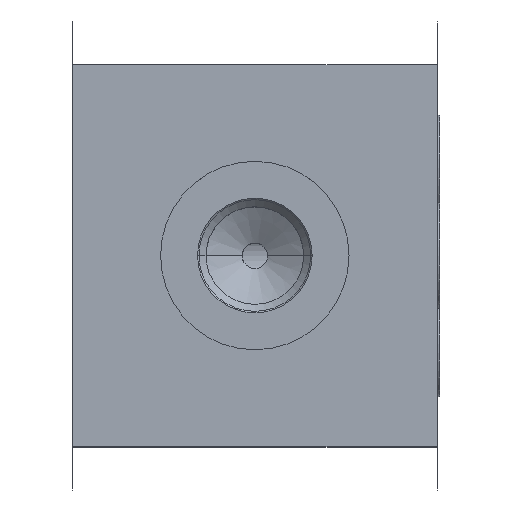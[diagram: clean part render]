
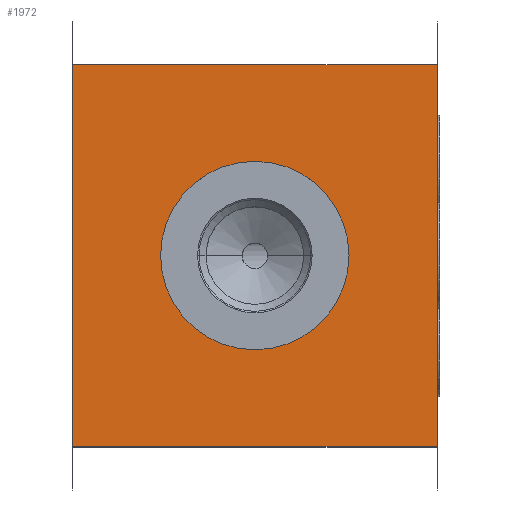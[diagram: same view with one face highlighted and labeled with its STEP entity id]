
A CAD part, top view. The second image highlights one B-rep face of the part: STEP entity #1972.
In plain terms, the highlighted planar face has unit normal (0, 0, 1).
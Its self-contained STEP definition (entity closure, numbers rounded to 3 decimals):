
#73=DIRECTION('',(0.,-1.,0.));
#74=VECTOR('',#73,45.);
#75=CARTESIAN_POINT('',(0.,22.5,34.));
#76=LINE('',#75,#74);
#224=DIRECTION('',(1.,0.,0.));
#225=VECTOR('',#224,43.);
#226=CARTESIAN_POINT('',(0.,-22.5,34.));
#227=LINE('',#226,#225);
#231=DIRECTION('',(1.,0.,0.));
#232=VECTOR('',#231,43.);
#233=CARTESIAN_POINT('',(0.,22.5,34.));
#234=LINE('',#233,#232);
#238=CARTESIAN_POINT('',(21.5,0.,34.));
#239=DIRECTION('',(0.,0.,-1.));
#240=DIRECTION('',(-1.,0.,0.));
#241=AXIS2_PLACEMENT_3D('',#238,#239,#240);
#246=CARTESIAN_POINT('',(21.5,0.,34.));
#247=DIRECTION('',(0.,0.,-1.));
#248=DIRECTION('',(1.,0.,0.));
#249=AXIS2_PLACEMENT_3D('',#246,#247,#248);
#291=DIRECTION('',(0.,-1.,0.));
#292=VECTOR('',#291,45.);
#293=CARTESIAN_POINT('',(43.,22.5,34.));
#294=LINE('',#293,#292);
#1637=CARTESIAN_POINT('',(0.,-22.5,34.));
#1639=VERTEX_POINT('',#1637);
#1643=CARTESIAN_POINT('',(0.,22.5,34.));
#1644=VERTEX_POINT('',#1643);
#1645=CARTESIAN_POINT('',(43.,-22.5,34.));
#1647=VERTEX_POINT('',#1645);
#1651=CARTESIAN_POINT('',(43.,22.5,34.));
#1652=VERTEX_POINT('',#1651);
#1785=CARTESIAN_POINT('',(10.4,0.,34.));
#1786=VERTEX_POINT('',#1785);
#1787=CARTESIAN_POINT('',(32.6,0.,34.));
#1788=VERTEX_POINT('',#1787);
#1953=CARTESIAN_POINT('',(0.,22.5,34.));
#1954=DIRECTION('',(0.,0.,1.));
#1955=DIRECTION('',(0.,-1.,0.));
#1956=AXIS2_PLACEMENT_3D('',#1953,#1954,#1955);
#1957=PLANE('',#1956);
#1958=ORIENTED_EDGE('',*,*,#1855,.F.);
#1960=ORIENTED_EDGE('',*,*,#1959,.T.);
#1962=ORIENTED_EDGE('',*,*,#1961,.T.);
#1963=ORIENTED_EDGE('',*,*,#1932,.F.);
#1964=EDGE_LOOP('',(#1958,#1960,#1962,#1963));
#1965=FACE_OUTER_BOUND('',#1964,.F.);
#1967=ORIENTED_EDGE('',*,*,#1966,.F.);
#1969=ORIENTED_EDGE('',*,*,#1968,.F.);
#1970=EDGE_LOOP('',(#1967,#1969));
#1971=FACE_BOUND('',#1970,.F.);
#242=CIRCLE('',#241,11.1);
#250=CIRCLE('',#249,11.1);
#1855=EDGE_CURVE('',#1644,#1639,#76,.T.);
#1932=EDGE_CURVE('',#1639,#1647,#227,.T.);
#1959=EDGE_CURVE('',#1644,#1652,#234,.T.);
#1961=EDGE_CURVE('',#1652,#1647,#294,.T.);
#1966=EDGE_CURVE('',#1786,#1788,#242,.T.);
#1968=EDGE_CURVE('',#1788,#1786,#250,.T.);
#1972=ADVANCED_FACE('',(#1965,#1971),#1957,.T.);
